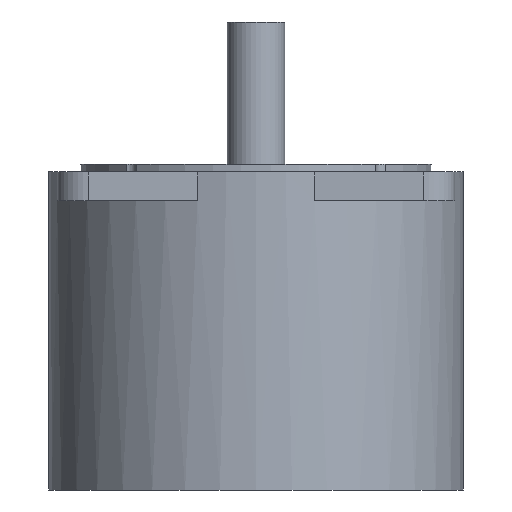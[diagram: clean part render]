
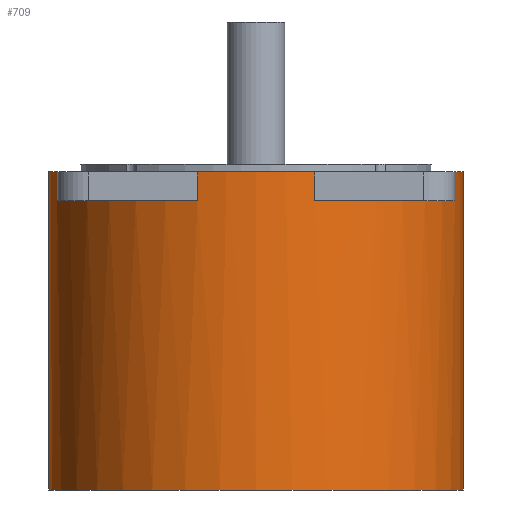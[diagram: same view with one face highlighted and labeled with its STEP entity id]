
A CAD part, front view. The second image highlights one B-rep face of the part: STEP entity #709.
In plain terms, the highlighted cylindrical face has radius 43 mm (diameter 86 mm), a full revolution.
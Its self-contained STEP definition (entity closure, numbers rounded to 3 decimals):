
#62=FACE_OUTER_BOUND('',#108,.T.);
#108=EDGE_LOOP('',(#556,#557,#558,#559,#560,#561,#562,#563,#564,#565,#566,
#567,#568,#569,#570,#571,#572,#573,#574,#575));
#157=LINE('',#1210,#208);
#159=LINE('',#1213,#210);
#161=LINE('',#1216,#212);
#163=LINE('',#1219,#214);
#165=LINE('',#1222,#216);
#167=LINE('',#1225,#218);
#168=LINE('',#1229,#219);
#169=LINE('',#1230,#220);
#170=LINE('',#1231,#221);
#208=VECTOR('',#969,6.);
#210=VECTOR('',#973,6.);
#212=VECTOR('',#977,6.);
#214=VECTOR('',#981,6.);
#216=VECTOR('',#985,6.);
#218=VECTOR('',#989,6.);
#219=VECTOR('',#994,43.);
#220=VECTOR('',#995,6.);
#221=VECTOR('',#996,6.);
#244=CIRCLE('',#763,43.);
#247=CIRCLE('',#767,43.);
#250=CIRCLE('',#771,43.);
#253=CIRCLE('',#775,43.);
#257=CIRCLE('',#780,43.);
#259=CIRCLE('',#782,43.);
#260=CIRCLE('',#783,43.);
#262=CIRCLE('',#785,43.);
#264=CIRCLE('',#787,43.);
#278=CIRCLE('',#808,43.);
#304=VERTEX_POINT('',#1107);
#305=VERTEX_POINT('',#1108);
#309=VERTEX_POINT('',#1118);
#310=VERTEX_POINT('',#1119);
#314=VERTEX_POINT('',#1129);
#315=VERTEX_POINT('',#1130);
#319=VERTEX_POINT('',#1140);
#320=VERTEX_POINT('',#1141);
#324=VERTEX_POINT('',#1151);
#327=VERTEX_POINT('',#1156);
#328=VERTEX_POINT('',#1158);
#331=VERTEX_POINT('',#1164);
#332=VERTEX_POINT('',#1166);
#333=VERTEX_POINT('',#1168);
#336=VERTEX_POINT('',#1174);
#337=VERTEX_POINT('',#1176);
#340=VERTEX_POINT('',#1182);
#351=VERTEX_POINT('',#1227);
#374=EDGE_CURVE('',#304,#305,#244,.T.);
#379=EDGE_CURVE('',#309,#310,#247,.T.);
#384=EDGE_CURVE('',#314,#315,#250,.T.);
#389=EDGE_CURVE('',#319,#320,#253,.T.);
#397=EDGE_CURVE('',#327,#328,#257,.T.);
#401=EDGE_CURVE('',#331,#332,#259,.T.);
#402=EDGE_CURVE('',#332,#333,#260,.T.);
#406=EDGE_CURVE('',#336,#337,#262,.T.);
#410=EDGE_CURVE('',#340,#324,#264,.T.);
#425=EDGE_CURVE('',#337,#305,#157,.T.);
#427=EDGE_CURVE('',#340,#304,#159,.T.);
#429=EDGE_CURVE('',#324,#320,#161,.T.);
#431=EDGE_CURVE('',#327,#319,#163,.T.);
#433=EDGE_CURVE('',#328,#315,#165,.T.);
#435=EDGE_CURVE('',#331,#314,#167,.T.);
#436=EDGE_CURVE('',#351,#351,#278,.T.);
#437=EDGE_CURVE('',#351,#332,#168,.T.);
#438=EDGE_CURVE('',#336,#309,#169,.T.);
#439=EDGE_CURVE('',#333,#310,#170,.T.);
#556=ORIENTED_EDGE('',*,*,#436,.F.);
#557=ORIENTED_EDGE('',*,*,#437,.T.);
#558=ORIENTED_EDGE('',*,*,#401,.F.);
#559=ORIENTED_EDGE('',*,*,#435,.T.);
#560=ORIENTED_EDGE('',*,*,#384,.T.);
#561=ORIENTED_EDGE('',*,*,#433,.F.);
#562=ORIENTED_EDGE('',*,*,#397,.F.);
#563=ORIENTED_EDGE('',*,*,#431,.T.);
#564=ORIENTED_EDGE('',*,*,#389,.T.);
#565=ORIENTED_EDGE('',*,*,#429,.F.);
#566=ORIENTED_EDGE('',*,*,#410,.F.);
#567=ORIENTED_EDGE('',*,*,#427,.T.);
#568=ORIENTED_EDGE('',*,*,#374,.T.);
#569=ORIENTED_EDGE('',*,*,#425,.F.);
#570=ORIENTED_EDGE('',*,*,#406,.F.);
#571=ORIENTED_EDGE('',*,*,#438,.T.);
#572=ORIENTED_EDGE('',*,*,#379,.T.);
#573=ORIENTED_EDGE('',*,*,#439,.F.);
#574=ORIENTED_EDGE('',*,*,#402,.F.);
#575=ORIENTED_EDGE('',*,*,#437,.F.);
#678=CYLINDRICAL_SURFACE('',#807,43.);
#709=ADVANCED_FACE('',(#62),#678,.T.);
#763=AXIS2_PLACEMENT_3D('',#1109,#874,#875);
#767=AXIS2_PLACEMENT_3D('',#1120,#884,#885);
#771=AXIS2_PLACEMENT_3D('',#1131,#894,#895);
#775=AXIS2_PLACEMENT_3D('',#1142,#904,#905);
#780=AXIS2_PLACEMENT_3D('',#1159,#918,#919);
#782=AXIS2_PLACEMENT_3D('',#1167,#924,#925);
#783=AXIS2_PLACEMENT_3D('',#1169,#926,#927);
#785=AXIS2_PLACEMENT_3D('',#1177,#932,#933);
#787=AXIS2_PLACEMENT_3D('',#1184,#938,#939);
#807=AXIS2_PLACEMENT_3D('',#1226,#990,#991);
#808=AXIS2_PLACEMENT_3D('',#1228,#992,#993);
#874=DIRECTION('center_axis',(0.,0.,-1.));
#875=DIRECTION('ref_axis',(-1.,0.,0.));
#884=DIRECTION('center_axis',(0.,0.,-1.));
#885=DIRECTION('ref_axis',(-1.,0.,0.));
#894=DIRECTION('center_axis',(0.,0.,-1.));
#895=DIRECTION('ref_axis',(-1.,0.,0.));
#904=DIRECTION('center_axis',(0.,0.,-1.));
#905=DIRECTION('ref_axis',(-1.,0.,0.));
#918=DIRECTION('center_axis',(0.,0.,1.));
#919=DIRECTION('ref_axis',(1.,0.,0.));
#924=DIRECTION('center_axis',(0.,0.,1.));
#925=DIRECTION('ref_axis',(1.,0.,0.));
#926=DIRECTION('center_axis',(0.,0.,1.));
#927=DIRECTION('ref_axis',(1.,0.,0.));
#932=DIRECTION('center_axis',(0.,0.,1.));
#933=DIRECTION('ref_axis',(1.,0.,0.));
#938=DIRECTION('center_axis',(0.,0.,1.));
#939=DIRECTION('ref_axis',(1.,0.,0.));
#969=DIRECTION('',(0.,0.,-1.));
#973=DIRECTION('',(0.,0.,-1.));
#977=DIRECTION('',(0.,0.,-1.));
#981=DIRECTION('',(0.,0.,-1.));
#985=DIRECTION('',(0.,0.,-1.));
#989=DIRECTION('',(0.,0.,-1.));
#990=DIRECTION('center_axis',(0.,0.,-1.));
#991=DIRECTION('ref_axis',(-1.,0.,0.));
#992=DIRECTION('center_axis',(0.,0.,-1.));
#993=DIRECTION('ref_axis',(-1.,0.,0.));
#994=DIRECTION('',(0.,0.,1.));
#995=DIRECTION('',(0.,0.,-1.));
#996=DIRECTION('',(0.,0.,-1.));
#1107=CARTESIAN_POINT('',(-41.25,12.142,0.));
#1108=CARTESIAN_POINT('',(-11.187,41.519,0.));
#1109=CARTESIAN_POINT('Origin',(0.,0.,0.));
#1118=CARTESIAN_POINT('',(11.187,41.519,0.));
#1119=CARTESIAN_POINT('',(41.25,12.142,0.));
#1120=CARTESIAN_POINT('Origin',(0.,0.,0.));
#1129=CARTESIAN_POINT('',(41.25,-12.142,0.));
#1130=CARTESIAN_POINT('',(12.142,-41.25,0.));
#1131=CARTESIAN_POINT('Origin',(0.,0.,0.));
#1140=CARTESIAN_POINT('',(-12.142,-41.25,0.));
#1141=CARTESIAN_POINT('',(-41.25,-12.142,0.));
#1142=CARTESIAN_POINT('Origin',(0.,0.,0.));
#1151=CARTESIAN_POINT('',(-41.25,-12.142,6.));
#1156=CARTESIAN_POINT('',(-12.142,-41.25,6.));
#1158=CARTESIAN_POINT('',(12.142,-41.25,6.));
#1159=CARTESIAN_POINT('Origin',(0.,0.,6.));
#1164=CARTESIAN_POINT('',(41.25,-12.142,6.));
#1166=CARTESIAN_POINT('',(43.,0.,6.));
#1167=CARTESIAN_POINT('Origin',(0.,0.,6.));
#1168=CARTESIAN_POINT('',(41.25,12.142,6.));
#1169=CARTESIAN_POINT('Origin',(0.,0.,6.));
#1174=CARTESIAN_POINT('',(11.187,41.519,6.));
#1176=CARTESIAN_POINT('',(-11.187,41.519,6.));
#1177=CARTESIAN_POINT('Origin',(0.,0.,6.));
#1182=CARTESIAN_POINT('',(-41.25,12.142,6.));
#1184=CARTESIAN_POINT('Origin',(0.,0.,6.));
#1210=CARTESIAN_POINT('',(-11.187,41.519,6.));
#1213=CARTESIAN_POINT('',(-41.25,12.142,6.));
#1216=CARTESIAN_POINT('',(-41.25,-12.142,6.));
#1219=CARTESIAN_POINT('',(-12.142,-41.25,6.));
#1222=CARTESIAN_POINT('',(12.142,-41.25,6.));
#1225=CARTESIAN_POINT('',(41.25,-12.142,6.));
#1226=CARTESIAN_POINT('Origin',(0.,0.,6.));
#1227=CARTESIAN_POINT('',(43.,0.,-60.));
#1228=CARTESIAN_POINT('Origin',(0.,0.,-60.));
#1229=CARTESIAN_POINT('',(43.,0.,6.));
#1230=CARTESIAN_POINT('',(11.187,41.519,6.));
#1231=CARTESIAN_POINT('',(41.25,12.142,6.));
